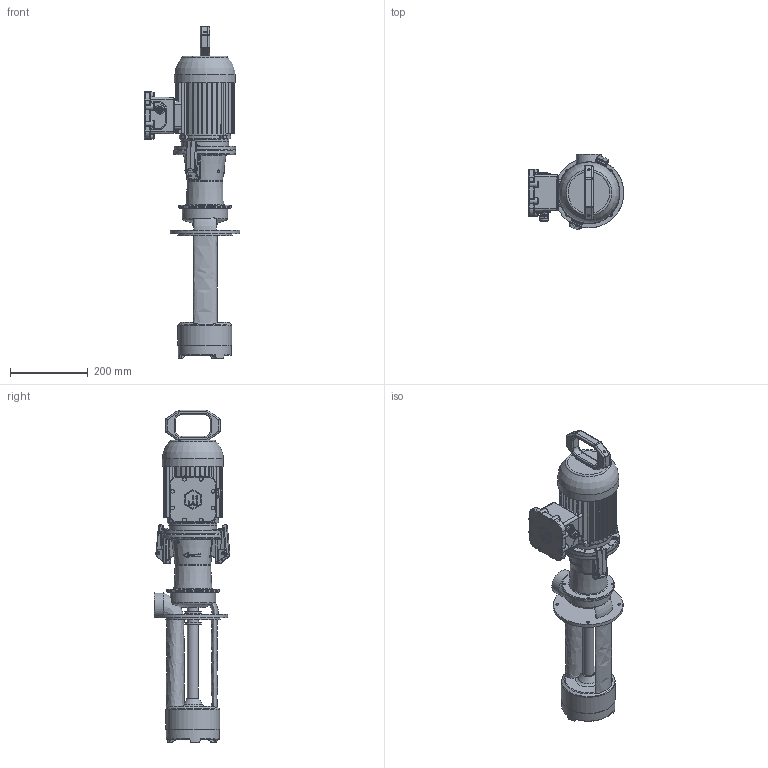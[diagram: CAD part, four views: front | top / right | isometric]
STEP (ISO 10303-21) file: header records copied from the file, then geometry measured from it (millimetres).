
FILE_DESCRIPTION(/* description */ ('Unknown'),/* implementation_level */ '2;1');
FILE_NAME(/* name */ 'EP EX 252-320',/* time_stamp */ '2025-06-03T09:15:56+03:00',/* author */ ('Unknown'),/* organization */ ('Unknown'),/* preprocessor_version */ 'ST-DEVELOPER v16.7',/* originating_system */ 'DEX',/* authorisation */ $);
FILE_SCHEMA (('AUTOMOTIVE_DESIGN {1 0 10303 214 3 1 1}'));
Length unit declared in the file: millimetre
Products named in the file (1): EP EX 252-320
Bounding box: 246.5 x 195.43 x 856.45 mm (x, y, z)
Volume: 8401272 mm3; surface area: 744143 mm2
Topology: 1 solids, 22 shells, 2297 faces, 6058 edges, 3779 vertices
Faces by surface type: cylinder 802, plane 730, bspline 404, torus 201, cone 113, sphere 47
Full cylindrical faces by diameter (mm): 3 x12, 3.242 x16, 4 x10, 4.134 x24, 4.9 x4, 5 x90, 5.3 x4, 5.5 x2, 5.7 x8, 6 x8, 7 x8, 8 x3, 9.5 x8, 12 x1, 13 x2, 13.962 x1, 16 x1, 18.348 x1, 18.376 x5, 19 x1, 20 x2, 21.8 x2, 28 x1, 29 x3, 30 x1, 42 x3, 44 x1, 48 x1, 62 x1, 73 x1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
Entity records: 109777 total; most frequent: CARTESIAN_POINT 43445, ORIENTED_EDGE 10866, DIRECTION 9982, EDGE_CURVE 5433, AXIS2_PLACEMENT_3D 4017, VERTEX_POINT 3586, FACE_BOUND 2697, EDGE_LOOP 2689
